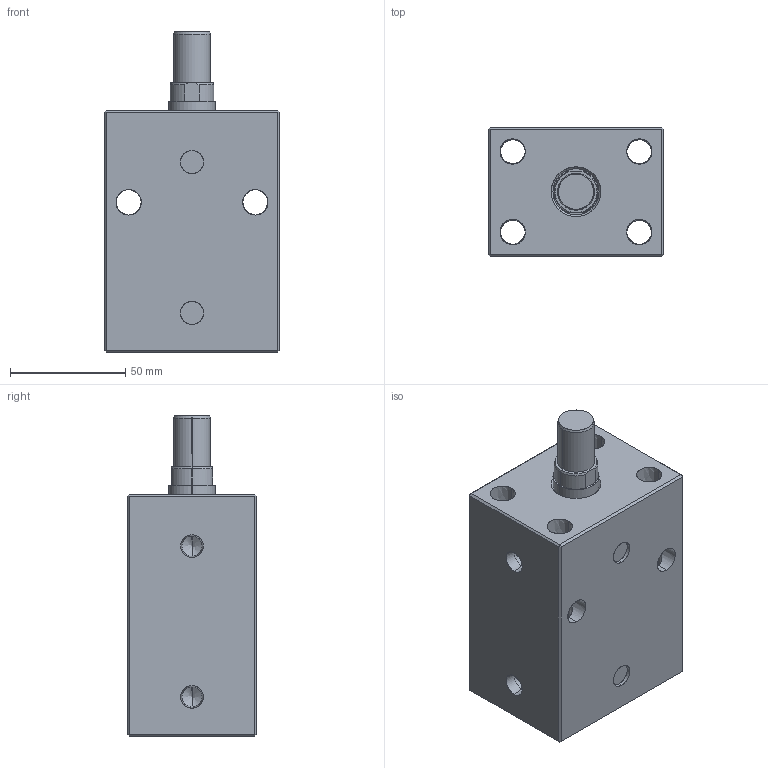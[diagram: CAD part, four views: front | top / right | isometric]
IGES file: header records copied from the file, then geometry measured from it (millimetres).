
Start section: SolidWorks IGES file using analytic representation for surfaces
Global section: file name: E:\ALL-SSVT-BLOCK\32-bore-igs model\BC04-32-50-M.IGS; native system: SolidWorks 2019; preprocessor: SolidWorks 2019; author: SSVT; date: 210825.130843; units: millimetre
Bounding box: 76 x 56 x 139 mm (x, y, z)
Surface area: 65006.7 mm2 (no closed solid volume)
Topology: 0 solids, 0 shells, 95 faces, 1728 edges, 1724 vertices
Faces by surface type: revolution 60, bspline 35
